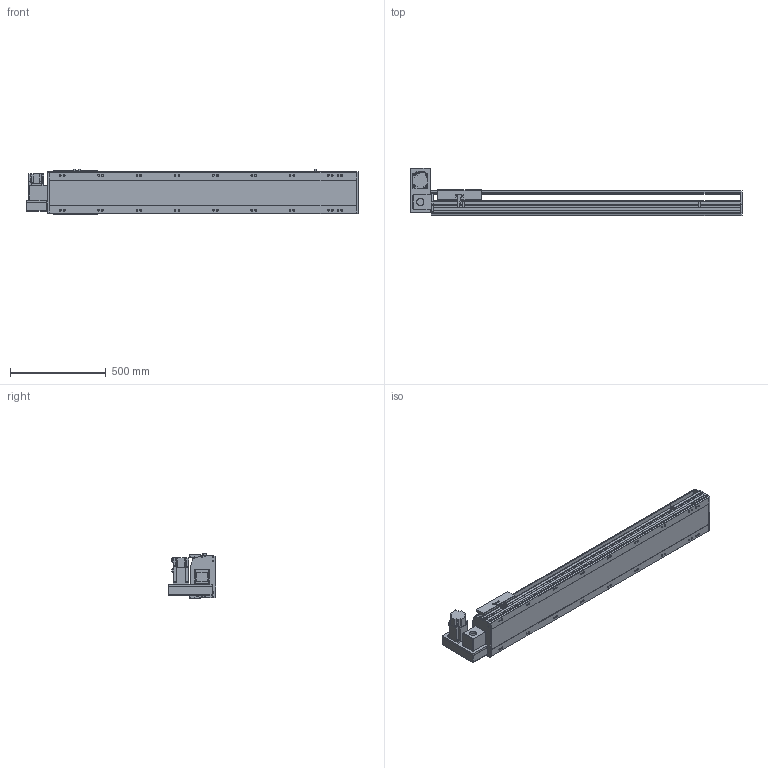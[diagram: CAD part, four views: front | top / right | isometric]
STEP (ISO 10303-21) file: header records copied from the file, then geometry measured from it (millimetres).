
FILE_DESCRIPTION(/* description */ ('STEP AP214'),/* implementation_level */ '2;1');
FILE_NAME(/* name */ 'PBS220-P40-S1250-LU-T75-C1-N(0)',/* time_stamp */ '2022-06-13T02:30:00+02:00',/* author */ ('License CC BY-ND 4.0'),/* organization */ ('CADENAS'),/* preprocessor_version */ 'ST-DEVELOPER v18.102',/* originating_system */ 'PARTsolutions',/* authorisation */ ' ');
FILE_SCHEMA (('AUTOMOTIVE_DESIGN {1 0 10303 214 3 1 1}'));
Length unit declared in the file: millimetre
Products named in the file (7): PBS220-P40-S1250-LU-T75-C1-N(0); PBS220_sensor; PBS220_plant; PBS220_sliser; T75-p1; PBS220T-LU_motors; PBS220-S1250()_body
Assembly tree (8 placements, depth 2):
  PBS220-P40-S1250-LU-T75-C1-N(0)
    PBS220_sensor  x3
    PBS220_plant
    PBS220_sliser
    T75-p1
    PBS220T-LU_motors
    PBS220-S1250()_body
Bounding box: 1734 x 247 x 238.5 mm (x, y, z)
Volume: 24819032.7 mm3; surface area: 2388462.1 mm2
Topology: 8 solids, 8 shells, 926 faces, 2424 edges, 1576 vertices
Faces by surface type: plane 602, cylinder 282, cone 42
Full cylindrical faces by diameter (mm): 2.013 x4, 4.5 x14, 4.917 x4, 6 x7, 6.647 x8, 8 x10, 8.376 x18, 8.5 x18, 10 x6, 14 x18, 38 x2, 40 x1, 70 x1
Entity records: 25941 total; most frequent: CARTESIAN_POINT 4558, DIRECTION 4509, ORIENTED_EDGE 4142, EDGE_CURVE 2071, AXIS2_PLACEMENT_3D 1581, VERTEX_POINT 1432, LINE 1347, VECTOR 1347
